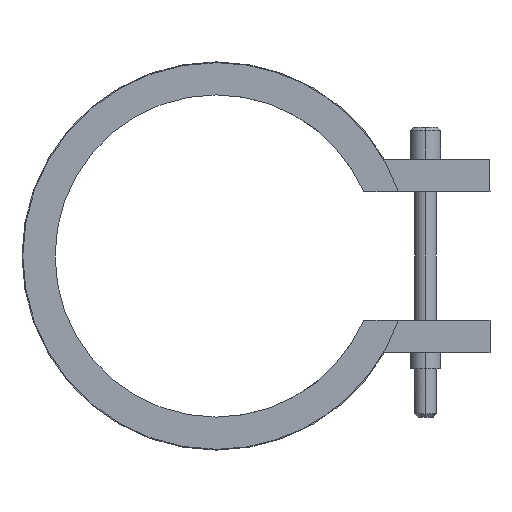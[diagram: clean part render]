
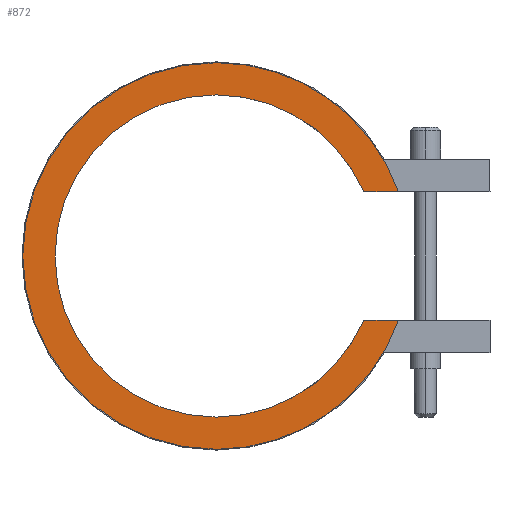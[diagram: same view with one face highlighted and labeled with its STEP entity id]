
A CAD part, left-side view. The second image highlights one B-rep face of the part: STEP entity #872.
In plain terms, the highlighted planar face has unit normal (-1, 0, 0).
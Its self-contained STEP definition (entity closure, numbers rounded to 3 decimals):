
#410=CARTESIAN_POINT('Vertex',(-22.5,-18.33,-8.)) ;
#413=CARTESIAN_POINT('Line Origine',(-22.5,-20.479,-8.)) ;
#417=CARTESIAN_POINT('Vertex',(-22.5,-22.627,-8.)) ;
#463=CARTESIAN_POINT('Vertex',(-22.5,0.,-24.)) ;
#466=CARTESIAN_POINT('Axis2P3D Location',(-22.5,0.,0.)) ;
#487=CARTESIAN_POINT('Vertex',(-22.5,0.,24.)) ;
#490=CARTESIAN_POINT('Axis2P3D Location',(-22.5,0.,0.)) ;
#502=CARTESIAN_POINT('Axis2P3D Location',(-22.5,0.,0.)) ;
#506=CARTESIAN_POINT('Vertex',(-22.5,-22.627,8.)) ;
#526=CARTESIAN_POINT('Line Origine',(-22.5,-20.479,8.)) ;
#530=CARTESIAN_POINT('Vertex',(-22.5,-18.33,8.)) ;
#818=CARTESIAN_POINT('Axis2P3D Location',(-22.5,0.,0.)) ;
#822=CARTESIAN_POINT('Vertex',(-22.5,0.,-20.)) ;
#845=CARTESIAN_POINT('Axis2P3D Location',(-22.5,0.,0.)) ;
#850=CARTESIAN_POINT('Axis2P3D Location',(-22.5,0.,0.)) ;
#854=CARTESIAN_POINT('Vertex',(-22.5,0.,20.)) ;
#857=CARTESIAN_POINT('Axis2P3D Location',(-22.5,0.,0.)) ;
#414=DIRECTION('Vector Direction',(0.,1.,0.)) ;
#467=DIRECTION('Axis2P3D Direction',(1.,0.,-0.)) ;
#491=DIRECTION('Axis2P3D Direction',(1.,0.,-0.)) ;
#503=DIRECTION('Axis2P3D Direction',(1.,0.,-0.)) ;
#527=DIRECTION('Vector Direction',(0.,-1.,0.)) ;
#819=DIRECTION('Axis2P3D Direction',(1.,0.,-0.)) ;
#846=DIRECTION('Axis2P3D Direction',(1.,0.,0.)) ;
#847=DIRECTION('Axis2P3D XDirection',(0.,0.,-1.)) ;
#851=DIRECTION('Axis2P3D Direction',(1.,0.,0.)) ;
#858=DIRECTION('Axis2P3D Direction',(1.,0.,0.)) ;
#468=AXIS2_PLACEMENT_3D('Circle Axis2P3D',#466,#467,$) ;
#492=AXIS2_PLACEMENT_3D('Circle Axis2P3D',#490,#491,$) ;
#504=AXIS2_PLACEMENT_3D('Circle Axis2P3D',#502,#503,$) ;
#820=AXIS2_PLACEMENT_3D('Circle Axis2P3D',#818,#819,$) ;
#848=AXIS2_PLACEMENT_3D('Plane Axis2P3D',#845,#846,#847) ;
#852=AXIS2_PLACEMENT_3D('Circle Axis2P3D',#850,#851,$) ;
#859=AXIS2_PLACEMENT_3D('Circle Axis2P3D',#857,#858,$) ;
#863=ORIENTED_EDGE('',*,*,#419,.T.) ;
#864=ORIENTED_EDGE('',*,*,#824,.T.) ;
#865=ORIENTED_EDGE('',*,*,#856,.T.) ;
#866=ORIENTED_EDGE('',*,*,#861,.T.) ;
#867=ORIENTED_EDGE('',*,*,#532,.T.) ;
#868=ORIENTED_EDGE('',*,*,#508,.F.) ;
#869=ORIENTED_EDGE('',*,*,#494,.F.) ;
#870=ORIENTED_EDGE('',*,*,#470,.F.) ;
#415=VECTOR('Line Direction',#414,1.) ;
#528=VECTOR('Line Direction',#527,1.) ;
#872=ADVANCED_FACE('14040045',(#871),#849,.F.) ;
#469=CIRCLE('generated circle',#468,24.) ;
#493=CIRCLE('generated circle',#492,24.) ;
#505=CIRCLE('generated circle',#504,24.) ;
#821=CIRCLE('generated circle',#820,20.) ;
#853=CIRCLE('generated circle',#852,20.) ;
#860=CIRCLE('generated circle',#859,20.) ;
#419=EDGE_CURVE('',#418,#411,#416,.T.) ;
#470=EDGE_CURVE('',#418,#464,#469,.T.) ;
#494=EDGE_CURVE('',#464,#488,#493,.T.) ;
#508=EDGE_CURVE('',#488,#507,#505,.T.) ;
#532=EDGE_CURVE('',#531,#507,#529,.T.) ;
#824=EDGE_CURVE('',#411,#823,#821,.T.) ;
#856=EDGE_CURVE('',#823,#855,#853,.T.) ;
#861=EDGE_CURVE('',#855,#531,#860,.T.) ;
#862=EDGE_LOOP('',(#863,#864,#865,#866,#867,#868,#869,#870)) ;
#871=FACE_OUTER_BOUND('',#862,.T.) ;
#416=LINE('Line',#413,#415) ;
#529=LINE('Line',#526,#528) ;
#849=PLANE('Plane',#848) ;
#411=VERTEX_POINT('',#410) ;
#418=VERTEX_POINT('',#417) ;
#464=VERTEX_POINT('',#463) ;
#488=VERTEX_POINT('',#487) ;
#507=VERTEX_POINT('',#506) ;
#531=VERTEX_POINT('',#530) ;
#823=VERTEX_POINT('',#822) ;
#855=VERTEX_POINT('',#854) ;
